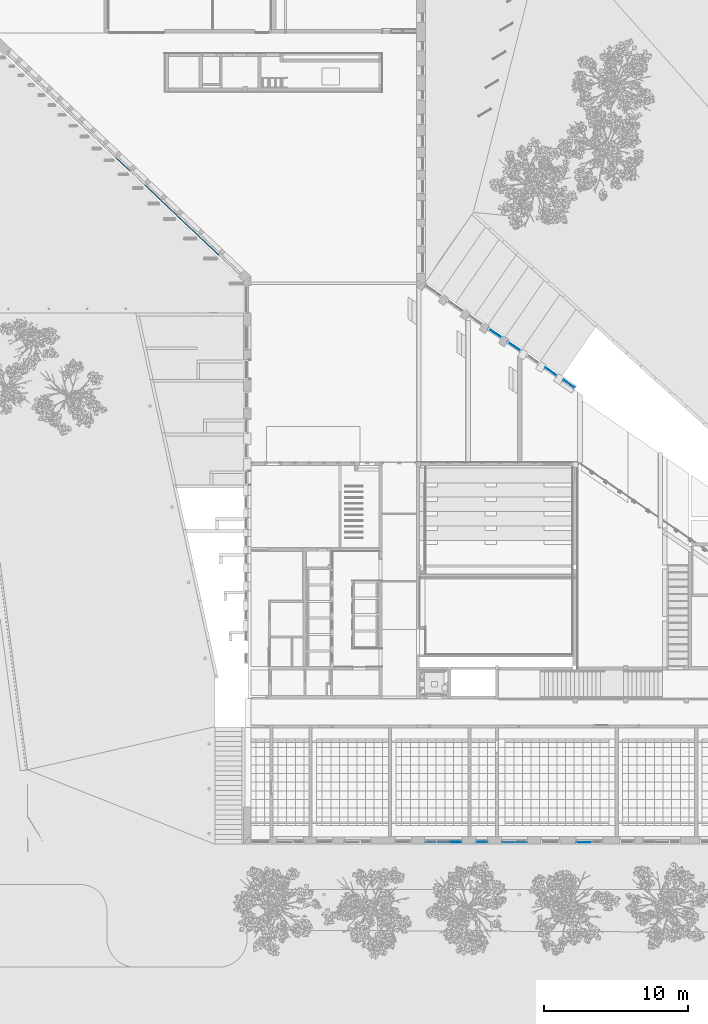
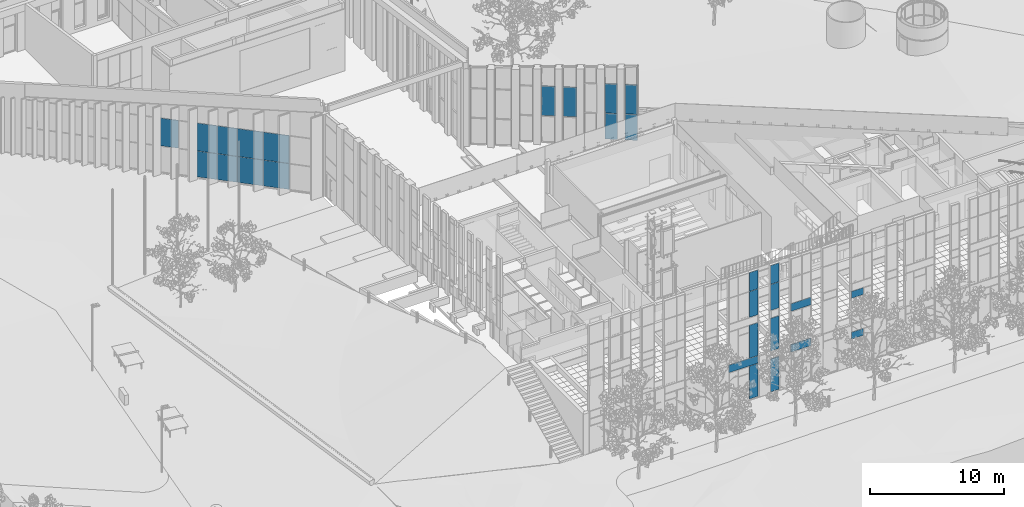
# One storey, part 50 of 246: 28 plates, 9 elements without a shape of their own.
"""IFC2X3 building model written with IfcOpenShell, lengths in millimetres."""

from ifc_helpers import new_model, entity, si_unit, converted_unit, derived_unit, money_unit, direction, frame, origin_with_axes, place, context, subcontext, project, spatial, faceted_brep, source, transform, mapped, material, type_object, element, aggregate, save


model = new_model("IFC2X3")

# Units and contexts
model_context = context("Model", 3, precision=0.01, world=origin_with_axes(), true_north=direction((0.0, 1.0)))
body_context = subcontext(model_context, "Body", "Model", "MODEL_VIEW")
ifc_project = project(units=[si_unit("LENGTHUNIT", "METRE", prefix="MILLI"), si_unit("AREAUNIT", "SQUARE_METRE"), si_unit("VOLUMEUNIT", "CUBIC_METRE"), converted_unit("PLANEANGLEUNIT", "DEGREE", entity("IfcPlaneAngleMeasure", 0.0174532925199), si_unit("PLANEANGLEUNIT", "RADIAN"), dimensions=[0, 0, 0, 0, 0, 0, 0]), si_unit("SOLIDANGLEUNIT", "STERADIAN"), money_unit("EUR"), converted_unit("TIMEUNIT", "Year", entity("IfcTimeMeasure", 31556926.0), si_unit("TIMEUNIT", "SECOND"), dimensions=[0, 0, 1, 0, 0, 0, 0]), si_unit("MASSUNIT", "GRAM", prefix="KILO"), si_unit("THERMODYNAMICTEMPERATUREUNIT", "DEGREE_CELSIUS"), si_unit("LUMINOUSINTENSITYUNIT", "LUMEN"), si_unit("ENERGYUNIT", "JOULE", prefix="MEGA"), derived_unit("THERMALCONDUCTANCEUNIT", [(si_unit("POWERUNIT", "WATT"), 1), (si_unit("LENGTHUNIT", "METRE"), -1), (si_unit("THERMODYNAMICTEMPERATUREUNIT", "KELVIN"), -1)]), derived_unit("SPECIFICHEATCAPACITYUNIT", [(si_unit("ENERGYUNIT", "JOULE"), 1), (si_unit("MASSUNIT", "GRAM", prefix="KILO"), -1), (si_unit("THERMODYNAMICTEMPERATUREUNIT", "KELVIN"), -1)]), derived_unit("MASSDENSITYUNIT", [(si_unit("MASSUNIT", "GRAM", prefix="KILO"), 1), (si_unit("VOLUMEUNIT", "CUBIC_METRE"), -1)])], contexts=[model_context])

# Site, building, storey
site_placement = place(None, origin_with_axes())
site = spatial("IfcSite", under=ifc_project, at=site_placement, Name="L.Koidula tn 11b", CompositionType="ELEMENT")
building_placement = place(site_placement, origin_with_axes())
building = spatial("IfcBuilding", under=site, at=building_placement, Name="Rakvere Riigigümnaasium", CompositionType="ELEMENT")
storey_placement = place(building_placement, origin_with_axes())
storey = spatial("IfcBuildingStorey", under=building, at=storey_placement, Name="1.korrus 0,00", CompositionType="ELEMENT", Elevation=0.0)

# Curtain wall, plates
curtain_wall_type = type_object("IfcCurtainWallType", Name="Curtain Wall Type", PredefinedType="NOTDEFINED")
curtain_wall_1_placement = place(storey_placement, frame((59064.0000846, 5111.45334637, -8.09717250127e-06), z_axis=(0.0, 0.0, 1.0), x_axis=(1.0, 0.0, 0.0)))
curtain_wall_1 = element("IfcCurtainWall", 1, at=curtain_wall_1_placement, inside=storey, type_object=curtain_wall_type, Name="KLF-05-2A")
ifc_material_1 = material(Name="Klaaspakett 3x ribikardinatega")
plate_type_1 = type_object("IfcPlateType", Name="1046 x 616 x 54", PredefinedType="CURTAIN_PANEL")
shared_shape_1 = source(origin_with_axes(), body_context, "Body", "Brep", [
    faceted_brep([(1082.99999844, 627.999994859, -27.0), (36.9999953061, 627.999994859, -27.0), (36.9999953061, 627.999994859, 27.0), (1082.99999844, 627.999994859, 27.0), (1082.99999844, 12.0000015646, -27.0), (36.9999953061, 12.0000015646, -27.0), (36.9999953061, 12.0000015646, 27.0), (1082.99999844, 12.0000015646, 27.0)], [[[0, 1, 2, 3]], [[0, 4, 5, 1]], [[1, 5, 6, 2]], [[3, 2, 6, 7]], [[4, 0, 3, 7]], [[5, 4, 7, 6]]]),
])
plate_1_placement = place(curtain_wall_1_placement, frame((-582.333458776, 0.0, 2720.0), z_axis=(0.0, 0.0, 1.0), x_axis=(-1.0, 0.0, 0.0)))
plate_1 = element("IfcPlate", 2, at=plate_1_placement, type_object=plate_type_1, material=ifc_material_1, Name="KLF-58", ObjectType="CURTAIN_PANEL", context=body_context, shape_type="MappedRepresentation", body=[
    mapped(shared_shape_1, transform((371.666628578, 0.0, -320.0), x_axis=(-1.0, 0.0, 0.0), y_axis=(0.0, 0.0, 1.0), z_axis=(0.0, 1.0, 0.0))),
])
plate_2_placement = place(curtain_wall_1_placement, frame((-582.333458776, 0.0, 6440.0), z_axis=(0.0, 0.0, 1.0), x_axis=(-1.0, 0.0, 0.0)))
plate_2 = element("IfcPlate", 3, at=plate_2_placement, type_object=plate_type_1, material=ifc_material_1, Name="KLF-71", ObjectType="CURTAIN_PANEL", context=body_context, shape_type="MappedRepresentation", body=[
    mapped(shared_shape_1, transform((371.666628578, 0.0, -320.0), x_axis=(-1.0, 0.0, 0.0), y_axis=(0.0, 0.0, 1.0), z_axis=(0.0, 1.0, 0.0))),
])
aggregate(curtain_wall_1, [plate_1, plate_2])

curtain_wall_2_placement = place(storey_placement, frame((48860.000217, 5111.43278481, -1.61944597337e-05), z_axis=(0.0, 0.0, 1.0), x_axis=(1.0, 0.0, 0.0)))
curtain_wall_2 = element("IfcCurtainWall", 4, at=curtain_wall_2_placement, inside=storey, type_object=curtain_wall_type, Name="KLF-05-3A")
ifc_material_2 = material(Name="Klaaspakett- taustvärvitud klaas 3x")
plate_type_2 = type_object("IfcPlateType", Name="788 x 681 x 54", PredefinedType="CURTAIN_PANEL")
shared_shape_2 = source(origin_with_axes(), body_context, "Body", "Brep", [
    faceted_brep([(2542.99946897, 693.000015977, -27.0), (1775.00001496, 693.000015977, -27.0), (1775.00001496, 693.000015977, 27.0), (2542.99946897, 693.000015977, 27.0), (2542.99946897, 11.9999992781, -27.0), (1775.00001496, 11.9999992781, -27.0), (825.000008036, 11.9999992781, -27.0), (36.9999913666, 11.9999992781, -27.0), (36.9999913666, 693.000015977, -27.0), (825.000008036, 693.000015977, -27.0), (825.000008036, 693.000015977, 27.0), (36.9999913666, 693.000015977, 27.0), (36.9999913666, 11.9999992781, 27.0), (825.000008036, 11.9999992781, 27.0), (1775.00001496, 11.9999992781, 27.0), (2542.99946897, 11.9999992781, 27.0)], [[[0, 1, 2, 3]], [[0, 4, 5, 6, 7, 8, 9, 1]], [[1, 9, 10, 2]], [[3, 2, 10, 11, 12, 13, 14, 15]], [[4, 0, 3, 15]], [[5, 4, 15, 14]], [[6, 5, 14, 13]], [[7, 6, 13, 12]], [[8, 7, 12, 11]], [[9, 8, 11, 10]]]),
])
plate_3_placement = place(curtain_wall_2_placement, frame((-5.00013491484, 7.9085138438e-05, 3392.5), z_axis=(0.0, 0.0, 1.0), x_axis=(-0.999999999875, 1.58166009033e-05, 0.0)))
plate_3 = element("IfcPlate", 5, at=plate_3_placement, type_object=plate_type_2, material=ifc_material_2, Name="KLF-05-3A-Klaasid", ObjectType="CURTAIN_PANEL", context=body_context, shape_type="MappedRepresentation", body=[
    mapped(shared_shape_2, transform((1294.99986508, 0.0, -352.5), x_axis=(-1.0, 0.0, 0.0), y_axis=(0.0, 0.0, 1.0), z_axis=(0.0, 1.0, 0.0))),
])
plate_type_3 = type_object("IfcPlateType", Name="Distinct Panel 756 x 628 x 65", PredefinedType="CURTAIN_PANEL")
shared_shape_3 = source(origin_with_axes(), body_context, "Body", "Brep", [
    faceted_brep([(767.999465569, 3002.99998659, -32.5), (12.0000134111, 3002.99998659, -32.5), (12.0000134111, 3002.99998659, 32.5), (767.999465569, 3002.99998659, 32.5), (767.999465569, 2375.00001855, -32.5), (767.999465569, 12.0000134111, -32.5), (12.0000134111, 12.0000134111, -32.5), (12.0000134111, 2375.00001855, -32.5), (12.0000134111, 2375.00001855, 32.5), (12.0000134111, 12.0000134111, 32.5), (767.999465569, 12.0000134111, 32.5), (767.999465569, 2375.00001855, 32.5)], [[[0, 1, 2, 3]], [[0, 4, 5, 6, 7, 1]], [[1, 7, 8, 2]], [[3, 2, 8, 9, 10, 11]], [[4, 0, 3, 11]], [[5, 4, 11, 10]], [[6, 5, 10, 9]], [[7, 6, 9, 8]]]),
])
plate_4_placement = place(curtain_wall_2_placement, frame((877.499730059, -0.0138790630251, 5541.66666667), z_axis=(0.0, 0.0, 1.0), x_axis=(-0.999999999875, 1.58166009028e-05, 0.0)))
plate_4 = element("IfcPlate", 6, at=plate_4_placement, type_object=plate_type_3, material=ifc_material_1, Name="KLF-05-3A-Klaasid", ObjectType="CURTAIN_PANEL", context=body_context, shape_type="MappedRepresentation", body=[
    mapped(shared_shape_3, transform((402.499730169, 0.0, -1796.66666667), x_axis=(-1.0, 0.0, 0.0), y_axis=(0.0, 0.0, 1.0), z_axis=(0.0, 1.0, 0.0))),
])
shared_shape_4 = source(origin_with_axes(), body_context, "Body", "Brep", [
    faceted_brep([(767.999451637, 3028.00000715, -32.5), (11.9999928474, 3028.00000715, -32.5), (11.9999928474, 3028.00000715, 32.5), (767.999451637, 3028.00000715, 32.5), (767.999451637, 2400.00001907, -32.5), (767.999451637, 37.0000119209, -32.5), (11.9999928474, 37.0000119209, -32.5), (11.9999928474, 2400.00001907, -32.5), (11.9999928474, 2400.00001907, 32.5), (11.9999928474, 37.0000119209, 32.5), (767.999451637, 37.0000119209, 32.5), (767.999451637, 2400.00001907, 32.5)], [[[0, 1, 2, 3]], [[0, 4, 5, 6, 7, 1]], [[1, 7, 8, 2]], [[3, 2, 8, 9, 10, 11]], [[4, 0, 3, 11]], [[5, 4, 11, 10]], [[6, 5, 10, 9]], [[7, 6, 9, 8]]]),
])
plate_5_placement = place(curtain_wall_2_placement, frame((877.499730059, -0.0138790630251, 1813.33333333), z_axis=(0.0, 0.0, 1.0), x_axis=(-0.999999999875, 1.58166009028e-05, 0.0)))
plate_5 = element("IfcPlate", 7, at=plate_5_placement, type_object=plate_type_3, material=ifc_material_1, Name="KLF-05-3A-Klaasid", ObjectType="CURTAIN_PANEL", context=body_context, shape_type="MappedRepresentation", body=[
    mapped(shared_shape_4, transform((402.499730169, 0.0, -1813.33333333), x_axis=(-1.0, 0.0, 0.0), y_axis=(0.0, 0.0, 1.0), z_axis=(0.0, 1.0, 0.0))),
])
plate_type_4 = type_object("IfcPlateType", Name="Distinct Panel 756 x 2351 x 65", PredefinedType="CURTAIN_PANEL")
shared_shape_5 = source(origin_with_axes(), body_context, "Body", "Brep", [
    faceted_brep([(767.999479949, 2363.00000149, -32.5), (11.9999985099, 2363.00000149, -32.5), (11.9999985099, 2363.00000149, 32.5), (767.999479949, 2363.00000149, 32.5), (767.999444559, 11.9999985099, -32.5), (11.9999985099, 11.9999985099, -32.5), (11.9999985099, 11.9999985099, 32.5), (767.999444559, 11.9999985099, 32.5)], [[[0, 1, 2, 3]], [[0, 4, 5, 1]], [[1, 5, 6, 2]], [[3, 2, 6, 7]], [[4, 0, 3, 7]], [[5, 4, 7, 6]]]),
])
plate_6_placement = place(curtain_wall_2_placement, frame((877.499731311, -0.0138790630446, 8652.5), z_axis=(0.0, 0.0, 1.0), x_axis=(-0.999999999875, 1.58166009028e-05, 0.0)))
plate_6 = element("IfcPlate", 8, at=plate_6_placement, type_object=plate_type_4, material=ifc_material_1, Name="KLF-05-4A-Klaasid", ObjectType="CURTAIN_PANEL", context=body_context, shape_type="MappedRepresentation", body=[
    mapped(shared_shape_5, transform((402.499731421, 0.0, -1187.5), x_axis=(-1.0, 0.0, 0.0), y_axis=(0.0, 0.0, 1.0), z_axis=(0.0, 1.0, 0.0))),
])
plate_type_5 = type_object("IfcPlateType", Name="Distinct Panel 756 x 1701 x 65", PredefinedType="CURTAIN_PANEL")
shared_shape_6 = source(origin_with_axes(), body_context, "Body", "Brep", [
    faceted_brep([(767.999542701, 1713.0000343, -32.5), (12.0000099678, 1713.0000343, -32.5), (12.0000099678, 1713.0000343, 32.5), (767.999542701, 1713.0000343, 32.5), (767.99946447, 12.0000099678, -32.5), (12.0000099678, 12.0000099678, -32.5), (12.0000099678, 12.0000099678, 32.5), (767.99946447, 12.0000099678, 32.5)], [[[0, 1, 2, 3]], [[0, 4, 5, 1]], [[1, 5, 6, 2]], [[3, 2, 6, 7]], [[4, 0, 3, 7]], [[5, 4, 7, 6]]]),
])
plate_7_placement = place(curtain_wall_2_placement, frame((877.499749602, -0.0138790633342, 10715.0000206), z_axis=(0.0, 0.0, 1.0), x_axis=(-0.999999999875, 1.58166009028e-05, 0.0)))
plate_7 = element("IfcPlate", 9, at=plate_7_placement, type_object=plate_type_5, material=ifc_material_1, Name="KLF-05-8A-Klaasid", ObjectType="CURTAIN_PANEL", context=body_context, shape_type="MappedRepresentation", body=[
    mapped(shared_shape_6, transform((402.499749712, 0.0, -875.000020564), x_axis=(-1.0, 0.0, 0.0), y_axis=(0.0, 0.0, 1.0), z_axis=(0.0, 1.0, 0.0))),
])
aggregate(curtain_wall_2, [plate_3, plate_4, plate_5, plate_6, plate_7])

curtain_wall_3_placement = place(storey_placement, frame((54287.5000684, 5111.45334637, -1.61944652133e-05), z_axis=(0.0, 0.0, 1.0), x_axis=(1.0, 0.0, 0.0)))
curtain_wall_3 = element("IfcCurtainWall", 10, at=curtain_wall_3_placement, inside=storey, type_object=curtain_wall_type, Name="KLF-05-2B")
plate_type_6 = type_object("IfcPlateType", Name="938 x 681 x 54", PredefinedType="CURTAIN_PANEL")
shared_shape_7 = source(origin_with_axes(), body_context, "Body", "Brep", [
    faceted_brep([(1743.00010277, 693.000009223, -27.0), (975.000009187, 693.000009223, -27.0), (975.000009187, 693.000009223, 27.0), (1743.00010277, 693.000009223, 27.0), (1743.00010277, 12.0000039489, -27.0), (975.000009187, 12.0000039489, -27.0), (36.9999967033, 12.0000039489, -27.0), (36.9999967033, 693.000009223, -27.0), (36.9999967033, 693.000009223, 27.0), (36.9999967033, 12.0000039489, 27.0), (975.000009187, 12.0000039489, 27.0), (1743.00010277, 12.0000039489, 27.0)], [[[0, 1, 2, 3]], [[0, 4, 5, 6, 7, 1]], [[1, 7, 8, 2]], [[3, 2, 8, 9, 10, 11]], [[4, 0, 3, 11]], [[5, 4, 11, 10]], [[6, 5, 10, 9]], [[7, 6, 9, 8]]]),
])
plate_8_placement = place(curtain_wall_3_placement, frame((-459.166683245, 0.0, 3392.5), z_axis=(0.0, 0.0, 1.0), x_axis=(-1.0, 0.0, 0.0)))
plate_8 = element("IfcPlate", 11, at=plate_8_placement, type_object=plate_type_6, material=ifc_material_2, Name="KLF-05-2D-Klaasid", ObjectType="CURTAIN_PANEL", context=body_context, shape_type="MappedRepresentation", body=[
    mapped(shared_shape_7, transform((918.333366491, 0.0, -352.5), x_axis=(-1.0, 0.0, 0.0), y_axis=(0.0, 0.0, 1.0), z_axis=(0.0, 1.0, 0.0))),
])
plate_9_placement = place(curtain_wall_3_placement, frame((-459.166683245, 0.0, 7112.5), z_axis=(0.0, 0.0, 1.0), x_axis=(-1.0, 0.0, 0.0)))
plate_9 = element("IfcPlate", 12, at=plate_9_placement, type_object=plate_type_6, material=ifc_material_2, Name="KLF-05-2D-Klaasid", ObjectType="CURTAIN_PANEL", context=body_context, shape_type="MappedRepresentation", body=[
    mapped(shared_shape_7, transform((918.333366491, 0.0, -352.5), x_axis=(-1.0, 0.0, 0.0), y_axis=(0.0, 0.0, 1.0), z_axis=(0.0, 1.0, 0.0))),
])
aggregate(curtain_wall_3, [plate_8, plate_9])

curtain_wall_4_placement = place(storey_placement, frame((51550.0001978, 5111.45334637, -1.61944652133e-05), z_axis=(0.0, 0.0, 1.0), x_axis=(1.0, 0.0, 0.0)))
curtain_wall_4 = element("IfcCurtainWall", 13, at=curtain_wall_4_placement, inside=storey, type_object=curtain_wall_type, Name="KLF-05-4A")
plate_type_7 = type_object("IfcPlateType", Name="Distinct Panel 706 x 2351 x 65", PredefinedType="CURTAIN_PANEL")
shared_shape_8 = source(origin_with_axes(), body_context, "Body", "Brep", [
    faceted_brep([(743.000379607, 2363.00000149, -32.5), (36.9999836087, 2363.00000149, -32.5), (36.9999836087, 2363.00000149, 32.5), (743.000379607, 2363.00000149, 32.5), (743.000414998, 11.9999985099, -32.5), (36.9999836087, 11.9999985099, -32.5), (36.9999836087, 11.9999985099, 32.5), (743.000414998, 11.9999985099, 32.5)], [[[0, 1, 2, 3]], [[0, 4, 5, 1]], [[1, 5, 6, 2]], [[3, 2, 6, 7]], [[4, 0, 3, 7]], [[5, 4, 7, 6]]]),
])
plate_10_placement = place(curtain_wall_4_placement, frame((0.0, 0.0, 8652.5), z_axis=(0.0, 0.0, 1.0), x_axis=(-1.0, 0.0, 0.0)))
plate_10 = element("IfcPlate", 14, at=plate_10_placement, type_object=plate_type_7, material=ifc_material_1, Name="KLF-05-4A-Klaasid", ObjectType="CURTAIN_PANEL", context=body_context, shape_type="MappedRepresentation", body=[
    mapped(shared_shape_8, transform((390.000197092, 0.0, -1187.5), x_axis=(-1.0, 0.0, 0.0), y_axis=(0.0, 0.0, 1.0), z_axis=(0.0, 1.0, 0.0))),
])
plate_type_8 = type_object("IfcPlateType", Name="Distinct Panel 706 x 2991 x 65", PredefinedType="CURTAIN_PANEL")
shared_shape_9 = source(origin_with_axes(), body_context, "Body", "Brep", [
    faceted_brep([(743.000396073, 3002.99998659, -32.5), (36.999981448, 3002.99998659, -32.5), (36.999981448, 3002.99998659, 32.5), (743.000396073, 3002.99998659, 32.5), (743.000396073, 12.0000134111, -32.5), (36.999981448, 12.0000134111, -32.5), (36.999981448, 12.0000134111, 32.5), (743.000396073, 12.0000134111, 32.5)], [[[0, 1, 2, 3]], [[0, 4, 5, 1]], [[1, 5, 6, 2]], [[3, 2, 6, 7]], [[4, 0, 3, 7]], [[5, 4, 7, 6]]]),
])
plate_11_placement = place(curtain_wall_4_placement, frame((5.73965763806e-06, 0.0, 5252.5), z_axis=(0.0, 0.0, 1.0), x_axis=(-1.0, 0.0, 0.0)))
plate_11 = element("IfcPlate", 15, at=plate_11_placement, type_object=plate_type_8, material=ifc_material_1, Name="KLF-05-4A-Klaasid", ObjectType="CURTAIN_PANEL", context=body_context, shape_type="MappedRepresentation", body=[
    mapped(shared_shape_9, transform((390.000202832, 0.0, -1507.5), x_axis=(-1.0, 0.0, 0.0), y_axis=(0.0, 0.0, 1.0), z_axis=(0.0, 1.0, 0.0))),
])
plate_type_9 = type_object("IfcPlateType", Name="Distinct Panel 706 x 628 x 65", PredefinedType="CURTAIN_PANEL")
shared_shape_10 = source(origin_with_axes(), body_context, "Body", "Brep", [
    faceted_brep([(743.000383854, 3028.00000715, -32.5), (37.0000119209, 3028.00000715, -32.5), (37.0000119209, 3028.00000715, 32.5), (743.000383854, 3028.00000715, 32.5), (743.000383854, 2400.00001907, -32.5), (743.000383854, 37.0000119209, -32.5), (37.0000119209, 37.0000119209, -32.5), (37.0000119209, 2400.00001907, -32.5), (37.0000119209, 2400.00001907, 32.5), (37.0000119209, 37.0000119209, 32.5), (743.000383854, 37.0000119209, 32.5), (743.000383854, 2400.00001907, 32.5)], [[[0, 1, 2, 3]], [[0, 4, 5, 6, 7, 1]], [[1, 7, 8, 2]], [[3, 2, 8, 9, 10, 11]], [[4, 0, 3, 11]], [[5, 4, 11, 10]], [[6, 5, 10, 9]], [[7, 6, 9, 8]]]),
])
plate_12_placement = place(curtain_wall_4_placement, frame((5.73964342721e-06, 0.0, 1813.33333333), z_axis=(0.0, 0.0, 1.0), x_axis=(-1.0, 0.0, 0.0)))
plate_12 = element("IfcPlate", 16, at=plate_12_placement, type_object=plate_type_9, material=ifc_material_1, Name="KLF-05-4A-Klaasid", ObjectType="CURTAIN_PANEL", context=body_context, shape_type="MappedRepresentation", body=[
    mapped(shared_shape_10, transform((390.000202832, 0.0, -1813.33333333), x_axis=(-1.0, 0.0, 0.0), y_axis=(0.0, 0.0, 1.0), z_axis=(0.0, 1.0, 0.0))),
])
plate_type_10 = type_object("IfcPlateType", Name="Distinct Panel 706 x 1701 x 65", PredefinedType="CURTAIN_PANEL")
shared_shape_11 = source(origin_with_axes(), body_context, "Body", "Brep", [
    faceted_brep([(743.000328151, 1713.0000343, -32.5), (37.00000683, 1713.0000343, -32.5), (37.00000683, 1713.0000343, 32.5), (743.000328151, 1713.0000343, 32.5), (743.000380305, 12.0000099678, -32.5), (37.00000683, 12.0000099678, -32.5), (37.00000683, 12.0000099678, 32.5), (743.000380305, 12.0000099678, 32.5)], [[[0, 1, 2, 3]], [[0, 4, 5, 1]], [[1, 5, 6, 2]], [[3, 2, 6, 7]], [[4, 0, 3, 7]], [[5, 4, 7, 6]]]),
])
plate_13_placement = place(curtain_wall_4_placement, frame((-2.24823182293e-05, 0.0, 10715.0000206), z_axis=(0.0, 0.0, 1.0), x_axis=(-1.0, 0.0, 0.0)))
plate_13 = element("IfcPlate", 17, at=plate_13_placement, type_object=plate_type_10, material=ifc_material_1, Name="KLF-05-4A-Klaasid", ObjectType="CURTAIN_PANEL", context=body_context, shape_type="MappedRepresentation", body=[
    mapped(shared_shape_11, transform((390.00017461, 0.0, -875.000020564), x_axis=(-1.0, 0.0, 0.0), y_axis=(0.0, 0.0, 1.0), z_axis=(0.0, 1.0, 0.0))),
])
aggregate(curtain_wall_4, [plate_10, plate_11, plate_12, plate_13])

curtain_wall_5_placement = place(storey_placement, frame((33997.0353268, 45217.6604975, 0.0), z_axis=(0.0, 0.0, 1.0), x_axis=(1.0, 0.0, 0.0)))
curtain_wall_5 = element("IfcCurtainWall", 18, at=curtain_wall_5_placement, inside=storey, type_object=curtain_wall_type, Name="KLF-02")
ifc_material_3 = material(Name="Klaaspakett 3x")
plate_type_11 = type_object("IfcPlateType", Name="Distinct Panel 1976 x 2351 x 54", PredefinedType="CURTAIN_PANEL")
shared_shape_12 = source(origin_with_axes(), body_context, "Body", "Brep", [
    faceted_brep([(-1988.00000875, 2388.00031122, -27.0), (-1988.00000875, 2388.00031122, 27.0), (-12.0000015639, 2388.00031122, 27.0), (-12.0000015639, 2388.00031122, -27.0), (-1988.00000875, 37.0000048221, -27.0), (-1988.00000875, 37.0000048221, 27.0), (-12.0000015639, 37.0000048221, 27.0), (-12.0000015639, 37.0000048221, -27.0)], [[[0, 1, 2, 3]], [[4, 5, 1, 0]], [[1, 5, 6, 2]], [[3, 2, 6, 7]], [[0, 3, 7, 4]], [[7, 6, 5, 4]]]),
])
plate_14_placement = place(curtain_wall_5_placement, frame((-1451.92045836, 1375.47336674, 1200.00015639), z_axis=(0.0, 0.0, 1.0), x_axis=(0.725960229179, -0.687736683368, 0.0)))
plate_14 = element("IfcPlate", 19, at=plate_14_placement, type_object=plate_type_11, material=ifc_material_3, Name="KLF-10-Klaasid", ObjectType="CURTAIN_PANEL", context=body_context, shape_type="MappedRepresentation", body=[
    mapped(shared_shape_12, transform((1000.0, 0.0, -1200.00015639), x_axis=(1.0, 0.0, 0.0), y_axis=(0.0, 0.0, 1.0), z_axis=(0.0, -1.0, 0.0))),
])
plate_15_placement = place(curtain_wall_5_placement, frame((-2903.84091672, 2750.94673347, 1200.00015639), z_axis=(0.0, 0.0, 1.0), x_axis=(0.725960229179, -0.687736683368, 0.0)))
plate_15 = element("IfcPlate", 20, at=plate_15_placement, type_object=plate_type_11, material=ifc_material_3, Name="KLF-13-Klaasid", ObjectType="CURTAIN_PANEL", context=body_context, shape_type="MappedRepresentation", body=[
    mapped(shared_shape_12, transform((1000.0, 0.0, -1200.00015639), x_axis=(1.0, 0.0, 0.0), y_axis=(0.0, 0.0, 1.0), z_axis=(0.0, -1.0, 0.0))),
])
plate_type_12 = type_object("IfcPlateType", Name="Distinct Panel 1976 x 2526 x 54", PredefinedType="CURTAIN_PANEL")
shared_shape_13 = source(origin_with_axes(), body_context, "Body", "Brep", [
    faceted_brep([(-1988.00000671, 2538.00000447, -27.0), (-1988.00000671, 2538.00000447, 27.0), (-11.9999955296, 2538.00000447, 27.0), (-11.9999955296, 2538.00000447, -27.0), (-1988.00000671, 11.9999955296, -27.0), (-1988.00000671, 11.9999955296, 27.0), (-11.9999955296, 11.9999955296, 27.0), (-11.9999955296, 11.9999955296, -27.0)], [[[0, 1, 2, 3]], [[4, 5, 1, 0]], [[1, 5, 6, 2]], [[3, 2, 6, 7]], [[0, 3, 7, 4]], [[7, 6, 5, 4]]]),
])
plate_16_placement = place(curtain_wall_5_placement, frame((-1451.92045836, 1375.47336674, 3675.00031279), z_axis=(0.0, 0.0, 1.0), x_axis=(0.725960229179, -0.687736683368, 0.0)))
plate_16 = element("IfcPlate", 21, at=plate_16_placement, type_object=plate_type_12, material=ifc_material_3, Name="KLF-11-Klaasid", ObjectType="CURTAIN_PANEL", context=body_context, shape_type="MappedRepresentation", body=[
    mapped(shared_shape_13, transform((1000.0, 0.0, -1275.0), x_axis=(1.0, 0.0, 0.0), y_axis=(0.0, 0.0, 1.0), z_axis=(0.0, -1.0, 0.0))),
])
plate_17_placement = place(curtain_wall_5_placement, frame((-2903.84091672, 2750.94673347, 3675.00031279), z_axis=(0.0, 0.0, 1.0), x_axis=(0.725960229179, -0.687736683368, 0.0)))
plate_17 = element("IfcPlate", 22, at=plate_17_placement, type_object=plate_type_12, material=ifc_material_3, Name="KLF-14-Klaasid", ObjectType="CURTAIN_PANEL", context=body_context, shape_type="MappedRepresentation", body=[
    mapped(shared_shape_13, transform((1000.0, 0.0, -1275.0), x_axis=(1.0, 0.0, 0.0), y_axis=(0.0, 0.0, 1.0), z_axis=(0.0, -1.0, 0.0))),
])
plate_type_13 = type_object("IfcPlateType", Name="Distinct Panel 1526 x 2351 x 54", PredefinedType="CURTAIN_PANEL")
shared_shape_14 = source(origin_with_axes(), body_context, "Body", "Brep", [
    faceted_brep([(-1537.99998587, 2388.00031122, -27.0), (-1537.99998587, 2388.00031122, 27.0), (-12.0000015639, 2388.00031122, 27.0), (-12.0000015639, 2388.00031122, -27.0), (-1537.99998587, 37.0000048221, -27.0), (-1537.99998587, 37.0000048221, 27.0), (-12.0000015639, 37.0000048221, 27.0), (-12.0000015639, 37.0000048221, -27.0)], [[[0, 1, 2, 3]], [[4, 5, 1, 0]], [[1, 5, 6, 2]], [[3, 2, 6, 7]], [[0, 3, 7, 4]], [[7, 6, 5, 4]]]),
])
plate_18_placement = place(curtain_wall_5_placement, frame((-4192.42032351, 3971.67934645, 1200.00015639), z_axis=(0.0, 0.0, 1.0), x_axis=(0.725960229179, -0.687736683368, 0.0)))
plate_18 = element("IfcPlate", 23, at=plate_18_placement, type_object=plate_type_13, material=ifc_material_3, Name="KLF-16-Klaasid", ObjectType="CURTAIN_PANEL", context=body_context, shape_type="MappedRepresentation", body=[
    mapped(shared_shape_14, transform((775.0, 0.0, -1200.00015639), x_axis=(1.0, 0.0, 0.0), y_axis=(0.0, 0.0, 1.0), z_axis=(0.0, -1.0, 0.0))),
])
plate_19_placement = place(curtain_wall_5_placement, frame((-5317.65867873, 5037.67120567, 1200.00015639), z_axis=(0.0, 0.0, 1.0), x_axis=(0.725960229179, -0.687736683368, 0.0)))
plate_19 = element("IfcPlate", 24, at=plate_19_placement, type_object=plate_type_13, material=ifc_material_3, Name="KLF-19-Klaasid", ObjectType="CURTAIN_PANEL", context=body_context, shape_type="MappedRepresentation", body=[
    mapped(shared_shape_14, transform((775.0, 0.0, -1200.00015639), x_axis=(1.0, 0.0, 0.0), y_axis=(0.0, 0.0, 1.0), z_axis=(0.0, -1.0, 0.0))),
])
plate_type_14 = type_object("IfcPlateType", Name="Distinct Panel 1526 x 2526 x 54", PredefinedType="CURTAIN_PANEL")
shared_shape_15 = source(origin_with_axes(), body_context, "Body", "Brep", [
    faceted_brep([(-1537.99998435, 2538.00000447, -27.0), (-1537.99998435, 2538.00000447, 27.0), (-11.9999955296, 2538.00000447, 27.0), (-11.9999955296, 2538.00000447, -27.0), (-1537.99998435, 11.9999955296, -27.0), (-1537.99998435, 11.9999955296, 27.0), (-11.9999955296, 11.9999955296, 27.0), (-11.9999955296, 11.9999955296, -27.0)], [[[0, 1, 2, 3]], [[4, 5, 1, 0]], [[1, 5, 6, 2]], [[3, 2, 6, 7]], [[0, 3, 7, 4]], [[7, 6, 5, 4]]]),
])
plate_20_placement = place(curtain_wall_5_placement, frame((-4192.42032351, 3971.67934645, 3675.00031279), z_axis=(0.0, 0.0, 1.0), x_axis=(0.725960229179, -0.687736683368, 0.0)))
plate_20 = element("IfcPlate", 25, at=plate_20_placement, type_object=plate_type_14, material=ifc_material_3, Name="KLF-17-Klaasid", ObjectType="CURTAIN_PANEL", context=body_context, shape_type="MappedRepresentation", body=[
    mapped(shared_shape_15, transform((775.0, 0.0, -1275.0), x_axis=(1.0, 0.0, 0.0), y_axis=(0.0, 0.0, 1.0), z_axis=(0.0, -1.0, 0.0))),
])
plate_21_placement = place(curtain_wall_5_placement, frame((-5317.65867873, 5037.67120567, 3675.00031279), z_axis=(0.0, 0.0, 1.0), x_axis=(0.725960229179, -0.687736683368, 0.0)))
plate_21 = element("IfcPlate", 26, at=plate_21_placement, type_object=plate_type_14, material=ifc_material_3, Name="KLF-20-Klaasid", ObjectType="CURTAIN_PANEL", context=body_context, shape_type="MappedRepresentation", body=[
    mapped(shared_shape_15, transform((775.0, 0.0, -1275.0), x_axis=(1.0, 0.0, 0.0), y_axis=(0.0, 0.0, 1.0), z_axis=(0.0, -1.0, 0.0))),
])
plate_type_15 = type_object("IfcPlateType", Name="Distinct Panel 1376 x 2526 x 54", PredefinedType="CURTAIN_PANEL")
shared_shape_16 = source(origin_with_axes(), body_context, "Body", "Brep", [
    faceted_brep([(-1388.00000224, 2538.00000447, -27.0), (-1388.00000224, 2538.00000447, 27.0), (-11.9999955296, 2538.00000447, 27.0), (-11.9999955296, 2538.00000447, -27.0), (-1388.00000224, 11.9999955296, -27.0), (-1388.00000224, 11.9999955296, 27.0), (-11.9999955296, 11.9999955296, 27.0), (-11.9999955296, 11.9999955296, -27.0)], [[[0, 1, 2, 3]], [[4, 5, 1, 0]], [[1, 5, 6, 2]], [[3, 2, 6, 7]], [[0, 3, 7, 4]], [[7, 6, 5, 4]]]),
])
plate_22_placement = place(curtain_wall_5_placement, frame((-7404.79433762, 7014.91417036, 3675.00031279), z_axis=(0.0, 0.0, 1.0), x_axis=(0.725960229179, -0.687736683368, 0.0)))
plate_22 = element("IfcPlate", 27, at=plate_22_placement, type_object=plate_type_15, material=ifc_material_3, Name="KLF-26-Klaasid", ObjectType="CURTAIN_PANEL", context=body_context, shape_type="MappedRepresentation", body=[
    mapped(shared_shape_16, transform((700.0, 0.0, -1275.0), x_axis=(1.0, 0.0, 0.0), y_axis=(0.0, 0.0, 1.0), z_axis=(0.0, -1.0, 0.0))),
])
aggregate(curtain_wall_5, [plate_14, plate_16, plate_15, plate_17, plate_18, plate_20, plate_19, plate_21, plate_22])

# Curtain wall, plate
curtain_wall_6_placement = place(storey_placement, frame((52468.8871131, 40491.1147045, 929.82179112), z_axis=(0.0, 0.0, 1.0), x_axis=(1.0, 0.0, 0.0)))
curtain_wall_6 = element("IfcCurtainWall", 28, at=curtain_wall_6_placement, inside=storey, type_object=curtain_wall_type, Name="KLF-06-26")
plate_type_16 = type_object("IfcPlateType", Name="Distinct Panel 1046 x 2676 x 54", PredefinedType="CURTAIN_PANEL")
shared_shape_17 = source(origin_with_axes(), body_context, "Body", "Brep", [
    faceted_brep([(-1082.99998659, 2688.00001341, -27.0), (-1082.99998659, 2688.00001341, 27.0), (-36.9999955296, 2688.00001341, 27.0), (-36.9999955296, 2688.00001341, -27.0), (-1083.00002682, 11.9999865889, -27.0), (-1083.00002682, 11.9999865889, 27.0), (-36.9999955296, 11.9999865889, 27.0), (-36.9999955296, 11.9999865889, -27.0)], [[[0, 1, 2, 3]], [[4, 5, 1, 0]], [[1, 5, 6, 2]], [[3, 2, 6, 7]], [[0, 3, 7, 4]], [[7, 6, 5, 4]]]),
])
plate_23_placement = place(curtain_wall_6_placement, frame((-7.98958410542e-06, 5.4798405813e-06, 3750.00005736), z_axis=(0.0, 0.0, 1.0), x_axis=(-0.824667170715, 0.565618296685, 0.0)))
plate_23 = element("IfcPlate", 29, at=plate_23_placement, type_object=plate_type_16, material=ifc_material_3, Name="KLF-06-26-Klaasid", ObjectType="CURTAIN_PANEL", context=body_context, shape_type="MappedRepresentation", body=[
    mapped(shared_shape_17, transform((559.999998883, 0.0, -1350.0), x_axis=(1.0, 0.0, 0.0), y_axis=(0.0, 0.0, 1.0), z_axis=(0.0, -1.0, 0.0))),
])
aggregate(curtain_wall_6, [plate_23])

curtain_wall_7_placement = place(storey_placement, frame((53804.0228659, 39575.3763588, 929.821791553), z_axis=(0.0, 0.0, 1.0), x_axis=(1.0, 0.0, 0.0)))
curtain_wall_7 = element("IfcCurtainWall", 30, at=curtain_wall_7_placement, inside=storey, type_object=curtain_wall_type, Name="KLF-06-25")
plate_24_placement = place(curtain_wall_7_placement, frame((0.0, 0.0, 3750.00005693), z_axis=(0.0, 0.0, 1.0), x_axis=(-0.824666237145, 0.565619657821, 0.0)))
plate_24 = element("IfcPlate", 31, at=plate_24_placement, type_object=plate_type_16, material=ifc_material_3, Name="KLF-06-25-Klaasid", ObjectType="CURTAIN_PANEL", context=body_context, shape_type="MappedRepresentation", body=[
    mapped(shared_shape_17, transform((560.000651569, 0.0, -1350.0), x_axis=(1.0, 0.0, 0.0), y_axis=(0.0, 0.0, 1.0), z_axis=(0.0, -1.0, 0.0))),
])
aggregate(curtain_wall_7, [plate_24])

curtain_wall_8_placement = place(storey_placement, frame((57595.8829175, 36974.6265181, 1395.00000109), z_axis=(0.0, 0.0, 1.0), x_axis=(1.0, 0.0, 0.0)))
curtain_wall_8 = element("IfcCurtainWall", 32, at=curtain_wall_8_placement, inside=storey, type_object=curtain_wall_type, Name="KLF-06-22")
plate_type_17 = type_object("IfcPlateType", Name="Distinct Panel 941 x 2676 x 54", PredefinedType="CURTAIN_PANEL")
shared_shape_18 = source(origin_with_axes(), body_context, "Body", "Brep", [
    faceted_brep([(-997.999933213, 2688.00001341, -27.0), (-997.999933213, 2688.00001341, 27.0), (-56.999915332, 2688.00001341, 27.0), (-56.999915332, 2688.00001341, -27.0), (-997.999933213, 11.9999865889, -27.0), (-997.999933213, 11.9999865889, 27.0), (-56.999915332, 11.9999865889, 27.0), (-56.999915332, 11.9999865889, -27.0)], [[[0, 1, 2, 3]], [[4, 5, 1, 0]], [[1, 5, 6, 2]], [[3, 2, 6, 7]], [[0, 3, 7, 4]], [[7, 6, 5, 4]]]),
])
plate_25_placement = place(curtain_wall_8_placement, frame((0.0, 0.0, 3750.00005693), z_axis=(0.0, 0.0, 1.0), x_axis=(-0.824666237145, 0.565619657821, 0.0)))
plate_25 = element("IfcPlate", 33, at=plate_25_placement, type_object=plate_type_17, material=ifc_material_3, Name="KLF-06-22-Klaasid", ObjectType="CURTAIN_PANEL", context=body_context, shape_type="MappedRepresentation", body=[
    mapped(shared_shape_18, transform((527.499927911, 0.0, -1350.0), x_axis=(1.0, 0.0, 0.0), y_axis=(0.0, 0.0, 1.0), z_axis=(0.0, -1.0, 0.0))),
])

curtain_wall_9_placement = place(storey_placement, frame((56346.8798402, 37831.2873164, 1395.00000109), z_axis=(0.0, 0.0, 1.0), x_axis=(1.0, 0.0, 0.0)))
curtain_wall_9 = element("IfcCurtainWall", 34, at=curtain_wall_9_placement, inside=storey, type_object=curtain_wall_type, Name="KLF-06-23")
plate_26_placement = place(curtain_wall_9_placement, frame((0.0, 0.0, 3750.00005693), z_axis=(0.0, 0.0, 1.0), x_axis=(-0.824666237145, 0.565619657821, 0.0)))
plate_26 = element("IfcPlate", 35, at=plate_26_placement, type_object=plate_type_17, material=ifc_material_3, Name="KLF-06-23-Klaasid", ObjectType="CURTAIN_PANEL", context=body_context, shape_type="MappedRepresentation", body=[
    mapped(shared_shape_18, transform((527.499991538, 0.0, -1350.0), x_axis=(1.0, 0.0, 0.0), y_axis=(0.0, 0.0, 1.0), z_axis=(0.0, -1.0, 0.0))),
])

# Plate
plate_type_18 = type_object("IfcPlateType", Name="Distinct Panel 941 x 2351 x 54", PredefinedType="CURTAIN_PANEL")
shared_shape_19 = source(origin_with_axes(), body_context, "Body", "Brep", [
    faceted_brep([(-997.999943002, 2388.00005665, -27.0), (-997.999943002, 2388.00005665, 27.0), (-56.9999206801, 2388.00005665, 27.0), (-56.9999206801, 2388.00005665, -27.0), (-997.999943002, 37.0000008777, -27.0), (-997.999943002, 37.0000008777, 27.0), (-56.9999206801, 37.0000008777, 27.0), (-56.9999206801, 37.0000008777, -27.0)], [[[0, 1, 2, 3]], [[4, 5, 1, 0]], [[1, 5, 6, 2]], [[3, 2, 6, 7]], [[0, 3, 7, 4]], [[7, 6, 5, 4]]]),
])
plate_27_placement = place(curtain_wall_8_placement, frame((4.42764047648e-06, -3.03681702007e-06, 1200.00002847), z_axis=(0.0, 0.0, 1.0), x_axis=(-0.824666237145, 0.565619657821, 0.0)))
plate_27 = element("IfcPlate", 36, at=plate_27_placement, type_object=plate_type_18, material=ifc_material_3, Name="KLF-06-22-Klaasid", ObjectType="CURTAIN_PANEL", context=body_context, shape_type="MappedRepresentation", body=[
    mapped(shared_shape_19, transform((527.49993328, 0.0, -1200.00002847), x_axis=(1.0, 0.0, 0.0), y_axis=(0.0, 0.0, 1.0), z_axis=(0.0, -1.0, 0.0))),
])

aggregate(curtain_wall_8, [plate_25, plate_27])

plate_28_placement = place(curtain_wall_9_placement, frame((-7.50726059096e-06, 5.14906162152e-06, 1200.00002847), z_axis=(0.0, 0.0, 1.0), x_axis=(-0.824666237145, 0.565619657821, 0.0)))
plate_28 = element("IfcPlate", 37, at=plate_28_placement, type_object=plate_type_18, material=ifc_material_3, Name="KLF-06-23-Klaasid", ObjectType="CURTAIN_PANEL", context=body_context, shape_type="MappedRepresentation", body=[
    mapped(shared_shape_19, transform((527.499982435, 0.0, -1200.00002847), x_axis=(1.0, 0.0, 0.0), y_axis=(0.0, 0.0, 1.0), z_axis=(0.0, -1.0, 0.0))),
])

aggregate(curtain_wall_9, [plate_26, plate_28])

save(model, "model.ifc")
